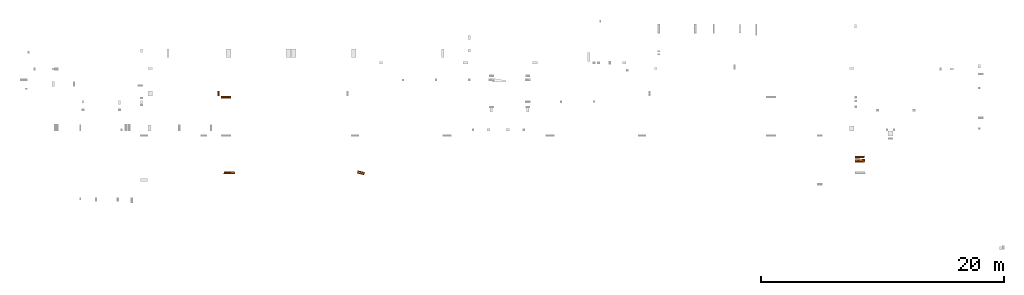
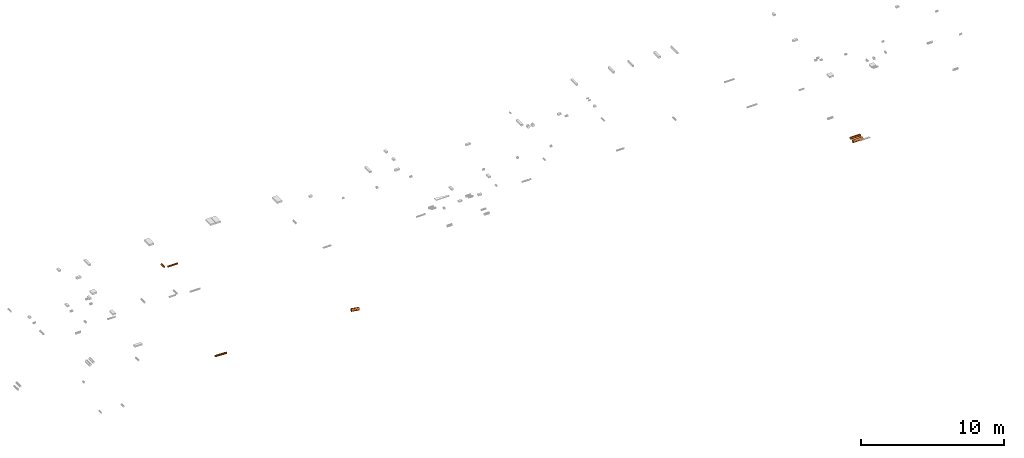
# One storey, part 7 of 7: 6 proxies.
"""IFC2X3 building model written with IfcOpenShell, lengths in centimetres."""

from ifc_helpers import new_model, entity, si_unit, converted_unit, derived_unit, direction, frame, origin, place, context, subcontext, project, spatial, faceted_brep, source, transform, mapped, type_object, type_shapes, element, save


model = new_model("IFC2X3")

# Units and contexts
model_context = context("Model", 3, precision=0.001, world=origin(), true_north=direction((6.12303176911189e-17, 1.0)))
body_context = subcontext(model_context, "Body", "Model", "MODEL_VIEW")
ifc_project = project(units=[si_unit("LENGTHUNIT", "METRE", prefix="CENTI"), si_unit("AREAUNIT", "SQUARE_METRE"), si_unit("VOLUMEUNIT", "CUBIC_METRE"), converted_unit("PLANEANGLEUNIT", "DEGREE", entity("IfcRatioMeasure", 0.0174532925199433), si_unit("PLANEANGLEUNIT", "RADIAN"), dimensions=[0, 0, 0, 0, 0, 0, 0]), si_unit("MASSUNIT", "GRAM", prefix="KILO"), derived_unit("MASSDENSITYUNIT", [(si_unit("MASSUNIT", "GRAM", prefix="KILO"), 1), (si_unit("LENGTHUNIT", "METRE"), -3)]), si_unit("TIMEUNIT", "SECOND"), si_unit("FREQUENCYUNIT", "HERTZ"), si_unit("THERMODYNAMICTEMPERATUREUNIT", "DEGREE_CELSIUS"), derived_unit("THERMALTRANSMITTANCEUNIT", [(si_unit("MASSUNIT", "GRAM", prefix="KILO"), 1), (si_unit("THERMODYNAMICTEMPERATUREUNIT", "KELVIN"), -1), (si_unit("TIMEUNIT", "SECOND"), -3)]), derived_unit("VOLUMETRICFLOWRATEUNIT", [(si_unit("LENGTHUNIT", "METRE"), 3), (si_unit("TIMEUNIT", "SECOND"), -1)]), si_unit("ELECTRICCURRENTUNIT", "AMPERE"), si_unit("ELECTRICVOLTAGEUNIT", "VOLT"), si_unit("POWERUNIT", "WATT"), si_unit("FORCEUNIT", "NEWTON"), si_unit("ILLUMINANCEUNIT", "LUX"), si_unit("LUMINOUSFLUXUNIT", "LUMEN"), si_unit("LUMINOUSINTENSITYUNIT", "CANDELA"), derived_unit("USERDEFINED", [(si_unit("MASSUNIT", "GRAM", prefix="KILO"), -1), (si_unit("LENGTHUNIT", "METRE"), -2), (si_unit("TIMEUNIT", "SECOND"), 3), (si_unit("LUMINOUSFLUXUNIT", "LUMEN"), 1)]), derived_unit("LINEARVELOCITYUNIT", [(si_unit("LENGTHUNIT", "METRE"), 1), (si_unit("TIMEUNIT", "SECOND"), -1)]), si_unit("PRESSUREUNIT", "PASCAL"), derived_unit("USERDEFINED", [(si_unit("LENGTHUNIT", "METRE"), -2), (si_unit("MASSUNIT", "GRAM", prefix="KILO"), 1), (si_unit("TIMEUNIT", "SECOND"), -2)])], contexts=[model_context])

# Site, building, storey
site_placement = place(None, origin())
site = spatial("IfcSite", under=ifc_project, at=site_placement, Name="Default", CompositionType="ELEMENT")
building_placement = place(site_placement, origin())
building = spatial("IfcBuilding", under=site, at=building_placement, Name="CAGE 03", CompositionType="ELEMENT")
storey_placement = place(building_placement, origin())
storey = spatial("IfcBuildingStorey", under=building, at=storey_placement, Name="RDC", CompositionType="ELEMENT", Elevation=-1.08286712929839e-13)

# Proxies
building_element_proxy_type_1 = type_object("IfcBuildingElementProxyType", Name="Standard", PredefinedType="NOTDEFINED")
shared_shape_1 = source(origin(), body_context, "Body", "Brep", [
    faceted_brep([(-8.66025445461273, -40.0000003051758, -5.00000003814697), (-9.6592587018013, -40.0000003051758, -2.58819049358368), (-9.6592587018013, 40.0000003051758, -2.58819049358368), (-8.66025445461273, 40.0000003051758, -5.00000003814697), (-7.07106775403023, -40.0000003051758, -7.07106775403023), (-7.07106775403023, 40.0000003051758, -7.07106775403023), (-2.58819049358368, -40.0000003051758, -9.6592587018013), (-5.00000003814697, -40.0000003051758, -8.66025445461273), (-5.00000003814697, 40.0000003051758, -8.66025445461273), (-2.58819049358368, 40.0000003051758, -9.6592587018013), (0.0, -40.0000003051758, -10.0000000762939), (0.0, 40.0000003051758, -10.0000000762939), (-10.0000000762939, -40.0000003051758, 0.0), (-10.0000000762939, 40.0000003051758, 0.0), (5.00000003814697, -40.0000003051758, -8.66025445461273), (2.58819049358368, -40.0000003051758, -9.6592587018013), (2.58819049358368, 40.0000003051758, -9.6592587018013), (5.00000003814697, 40.0000003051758, -8.66025445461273), (7.07106775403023, -40.0000003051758, -7.07106775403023), (7.07106775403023, 40.0000003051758, -7.07106775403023), (9.6592587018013, -40.0000003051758, -2.58819049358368), (8.66025445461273, -40.0000003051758, -5.00000003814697), (8.66025445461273, 40.0000003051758, -5.00000003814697), (9.6592587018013, 40.0000003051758, -2.58819049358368), (10.0000000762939, -40.0000003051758, 0.0), (10.0000000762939, 40.0000003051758, 0.0), (8.66025445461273, -40.0000003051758, 5.00000003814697), (9.6592587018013, -40.0000003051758, 2.58819049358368), (9.6592587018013, 40.0000003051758, 2.58819049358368), (8.66025445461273, 40.0000003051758, 5.00000003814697), (7.07106775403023, -40.0000003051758, 7.07106775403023), (7.07106775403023, 40.0000003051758, 7.07106775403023), (2.58819049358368, -40.0000003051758, 9.6592587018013), (5.00000003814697, -40.0000003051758, 8.66025445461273), (5.00000003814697, 40.0000003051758, 8.66025445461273), (2.58819049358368, 40.0000003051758, 9.6592587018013), (0.0, -40.0000003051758, 10.0000000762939), (0.0, 40.0000003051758, 10.0000000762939), (-5.00000003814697, -40.0000003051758, 8.66025445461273), (-2.58819049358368, -40.0000003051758, 9.6592587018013), (-2.58819049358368, 40.0000003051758, 9.6592587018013), (-5.00000003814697, 40.0000003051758, 8.66025445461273), (-7.07106775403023, -40.0000003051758, 7.07106775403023), (-7.07106775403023, 40.0000003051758, 7.07106775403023), (-9.6592587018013, -40.0000003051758, 2.58819049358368), (-8.66025445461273, -40.0000003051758, 5.00000003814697), (-8.66025445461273, 40.0000003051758, 5.00000003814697), (-9.6592587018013, 40.0000003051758, 2.58819049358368)], [[[0, 1, 2, 3]], [[4, 0, 3, 5]], [[6, 7, 8, 9]], [[7, 4, 5, 8]], [[10, 6, 9, 11]], [[1, 12, 13, 2]], [[14, 15, 16, 17]], [[18, 14, 17, 19]], [[20, 21, 22, 23]], [[21, 18, 19, 22]], [[24, 20, 23, 25]], [[11, 16, 15, 10]], [[26, 27, 28, 29]], [[30, 26, 29, 31]], [[32, 33, 34, 35]], [[33, 30, 31, 34]], [[36, 32, 35, 37]], [[28, 27, 24, 25]], [[38, 39, 40, 41]], [[42, 38, 41, 43]], [[44, 45, 46, 47]], [[45, 42, 43, 46]], [[12, 44, 47, 13]], [[37, 40, 39, 36]], [[24, 27, 26, 30, 33, 32, 36, 39, 38, 42, 45, 44, 12, 1, 0, 4, 7, 6, 10, 15, 14, 18, 21, 20]], [[25, 23, 22, 19, 17, 16, 11, 9, 8, 5, 3, 2, 13, 47, 46, 43, 41, 40, 37, 35, 34, 31, 29, 28]]]),
])
type_shapes(building_element_proxy_type_1, [shared_shape_1])
proxy_1_placement = place(storey_placement, frame((10054.3330746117, 4166.13160361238, -136.000852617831), z_axis=(0.0, 0.0, 1.0), x_axis=(0.0183302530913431, -0.999831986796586, 0.0)))
element("IfcBuildingElementProxy", 1, at=proxy_1_placement, inside=storey, type_object=building_element_proxy_type_1, Name="RESERVATION CIRC_MUR2:Standard", ObjectType="Standard", context=body_context, shape_type="MappedRepresentation", body=[
    mapped(shared_shape_1, transform((0.0, 0.0, 0.0), scale=1.0)),
])
building_element_proxy_type_2 = type_object("IfcBuildingElementProxyType", Name="Standard", PredefinedType="NOTDEFINED")
shared_shape_2 = source(origin(), body_context, "Body", "Brep", [
    faceted_brep([(8.83883457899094, -40.0000003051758, 8.83883457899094), (10.8253176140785, -40.0000003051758, 6.25000004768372), (10.8253176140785, 40.0000003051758, 6.25000004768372), (8.83883457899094, 40.0000003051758, 8.83883457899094), (3.2352381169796, -40.0000003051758, 12.0740731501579), (6.25000004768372, -40.0000003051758, 10.8253176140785), (6.25000004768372, 40.0000003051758, 10.8253176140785), (3.2352381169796, 40.0000003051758, 12.0740731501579), (0.0, -40.0000003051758, 12.5000000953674), (0.0, 40.0000003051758, 12.5000000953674), (12.5000000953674, 40.0000003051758, 0.0), (12.0740731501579, 40.0000003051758, 3.2352381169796), (12.0740731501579, -40.0000003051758, 3.2352381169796), (12.5000000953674, -40.0000003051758, 0.0), (-6.25000004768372, -40.0000003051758, 10.8253176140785), (-3.2352381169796, -40.0000003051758, 12.0740731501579), (-3.2352381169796, 40.0000003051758, 12.0740731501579), (-6.25000004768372, 40.0000003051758, 10.8253176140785), (-8.83883457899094, -40.0000003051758, 8.83883457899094), (-8.83883457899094, 40.0000003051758, 8.83883457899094), (-12.0740731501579, -40.0000003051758, 3.2352381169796), (-10.8253176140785, -40.0000003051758, 6.25000004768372), (-10.8253176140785, 40.0000003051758, 6.25000004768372), (-12.0740731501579, 40.0000003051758, 3.2352381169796), (-12.5000000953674, -40.0000003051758, 0.0), (-12.5000000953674, 40.0000003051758, 0.0), (-10.8253176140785, -40.0000003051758, -6.25000004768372), (-12.0740731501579, -40.0000003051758, -3.2352381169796), (-12.0740731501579, 40.0000003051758, -3.2352381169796), (-10.8253176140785, 40.0000003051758, -6.25000004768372), (-8.83883457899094, -40.0000003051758, -8.83883457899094), (-8.83883457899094, 40.0000003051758, -8.83883457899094), (-3.2352381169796, -40.0000003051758, -12.0740731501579), (-6.25000004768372, -40.0000003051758, -10.8253176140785), (-6.25000004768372, 40.0000003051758, -10.8253176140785), (-3.2352381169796, 40.0000003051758, -12.0740731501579), (0.0, -40.0000003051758, -12.5000000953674), (0.0, 40.0000003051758, -12.5000000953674), (6.25000004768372, -40.0000003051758, -10.8253176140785), (3.2352381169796, -40.0000003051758, -12.0740731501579), (3.2352381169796, 40.0000003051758, -12.0740731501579), (6.25000004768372, 40.0000003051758, -10.8253176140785), (8.83883457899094, -40.0000003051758, -8.83883457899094), (8.83883457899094, 40.0000003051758, -8.83883457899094), (12.0740731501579, -40.0000003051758, -3.2352381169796), (10.8253176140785, -40.0000003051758, -6.25000004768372), (10.8253176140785, 40.0000003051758, -6.25000004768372), (12.0740731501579, 40.0000003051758, -3.2352381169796)], [[[0, 1, 2, 3]], [[4, 5, 6, 7]], [[5, 0, 3, 6]], [[8, 4, 7, 9]], [[10, 11, 12, 13]], [[1, 12, 11, 2]], [[14, 15, 16, 17]], [[18, 14, 17, 19]], [[20, 21, 22, 23]], [[21, 18, 19, 22]], [[24, 20, 23, 25]], [[9, 16, 15, 8]], [[26, 27, 28, 29]], [[30, 26, 29, 31]], [[32, 33, 34, 35]], [[33, 30, 31, 34]], [[36, 32, 35, 37]], [[27, 24, 25, 28]], [[38, 39, 40, 41]], [[42, 38, 41, 43]], [[44, 45, 46, 47]], [[45, 42, 43, 46]], [[13, 44, 47, 10]], [[37, 40, 39, 36]], [[13, 12, 1, 0, 5, 4, 8, 15, 14, 18, 21, 20, 24, 27, 26, 30, 33, 32, 36, 39, 38, 42, 45, 44]], [[10, 47, 46, 43, 41, 40, 37, 35, 34, 31, 29, 28, 25, 23, 22, 19, 17, 16, 9, 7, 6, 3, 2, 11]]]),
])
type_shapes(building_element_proxy_type_2, [shared_shape_2])
proxy_2_placement = place(storey_placement, frame((10054.9106886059, 4135.12538574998, -143.356496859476), z_axis=(0.0, 0.0, 1.0), x_axis=(0.0183302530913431, -0.999831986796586, 0.0)))
element("IfcBuildingElementProxy", 2, at=proxy_2_placement, inside=storey, type_object=building_element_proxy_type_2, Name="RESERVATION CIRC_MUR2:Standard", ObjectType="Standard", context=body_context, shape_type="MappedRepresentation", body=[
    mapped(shared_shape_2, transform((0.0, 0.0, 0.0), scale=1.0)),
])
building_element_proxy_type_3 = type_object("IfcBuildingElementProxyType", Name="Standard", PredefinedType="NOTDEFINED")
shared_shape_3 = source(origin(), body_context, "Body", "Brep", [
    faceted_brep([(8.0, -45.0, 0.0), (7.72740661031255, -45.0, 2.07055236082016), (6.92820323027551, -45.0, 4.0), (5.65685424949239, -45.0, 5.65685424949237), (4.0, -45.0, 6.9282032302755), (2.07055236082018, -45.0, 7.72740661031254), (0.0, -45.0, 8.0), (-2.07055236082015, -45.0, 7.72740661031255), (-4.0, -45.0, 6.92820323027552), (-5.65685424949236, -45.0, 5.65685424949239), (-6.9282032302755, -45.0, 4.0), (-7.72740661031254, -45.0, 2.07055236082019), (-8.0, -45.0, 0.0), (-7.72740661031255, -45.0, -2.07055236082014), (-6.92820323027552, -45.0, -4.0), (-5.6568542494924, -45.0, -5.65685424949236), (-4.0, -45.0, -6.92820323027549), (-2.0705523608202, -45.0, -7.72740661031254), (0.0, -45.0, -8.0), (2.07055236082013, -45.0, -7.72740661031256), (4.0, -45.0, -6.92820323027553), (5.65685424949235, -45.0, -5.65685424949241), (6.92820323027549, -45.0, -4.0), (7.72740661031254, -45.0, -2.07055236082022), (-7.72740623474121, 45.0000003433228, -2.07055244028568), (-6.92820310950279, 45.0000003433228, -4.00000021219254), (-5.65685447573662, 45.0000003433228, -5.65685447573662), (-4.00000021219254, 45.0000003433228, -6.92820310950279), (-2.07055244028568, 45.0000003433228, -7.72740623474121), (0.0, 45.0000003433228, -8.00000042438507), (-8.00000042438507, 45.0000003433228, 0.0), (2.07055244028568, 45.0000003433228, -7.72740623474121), (4.00000021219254, 45.0000003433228, -6.92820310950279), (5.65685447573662, 45.0000003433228, -5.65685447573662), (6.92820310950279, 45.0000003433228, -4.00000021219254), (7.72740623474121, 45.0000003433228, -2.07055244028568), (8.00000042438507, 45.0000003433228, 0.0), (-7.72740661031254, 45.0, 2.07055236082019), (-6.9282032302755, 45.0, 4.0), (-5.65685424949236, 45.0, 5.65685424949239), (-4.0, 45.0, 6.92820323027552), (-2.07055236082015, 45.0, 7.72740661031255), (0.0, 45.0, 8.0), (2.07055236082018, 45.0, 7.72740661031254), (4.0, 45.0, 6.9282032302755), (5.65685424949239, 45.0, 5.65685424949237), (6.92820323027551, 45.0, 4.0), (7.72740661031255, 45.0, 2.07055236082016)], [[[0, 1, 2, 3, 4, 5, 6, 7, 8, 9, 10, 11, 12, 13, 14, 15, 16, 17, 18, 19, 20, 21, 22, 23]], [[14, 13, 24, 25]], [[15, 14, 25, 26]], [[17, 16, 27, 28]], [[16, 15, 26, 27]], [[18, 17, 28, 29]], [[13, 12, 30, 24]], [[20, 19, 31, 32]], [[21, 20, 32, 33]], [[23, 22, 34, 35]], [[22, 21, 33, 34]], [[0, 23, 35, 36]], [[29, 31, 19, 18]], [[36, 35, 34, 33, 32, 31, 29, 28, 27, 26, 25, 24, 30, 37, 38, 39, 40, 41, 42, 43, 44, 45, 46, 47]], [[2, 1, 47, 46]], [[3, 2, 46, 45]], [[5, 4, 44, 43]], [[4, 3, 45, 44]], [[6, 5, 43, 42]], [[47, 1, 0, 36]], [[8, 7, 41, 40]], [[9, 8, 40, 39]], [[11, 10, 38, 37]], [[10, 9, 39, 38]], [[12, 11, 37, 30]], [[42, 41, 7, 6]]]),
])
type_shapes(building_element_proxy_type_3, [shared_shape_3])
proxy_3_placement = place(storey_placement, frame((4867.96694572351, 4036.69898966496, -96.6679459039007), z_axis=(0.0, 0.0, 1.0), x_axis=(0.0427203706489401, 0.999087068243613, 0.0)))
element("IfcBuildingElementProxy", 3, at=proxy_3_placement, inside=storey, type_object=building_element_proxy_type_3, Name="RESERVATION CIRC_MUR2:Standard", ObjectType="Standard", context=body_context, shape_type="MappedRepresentation", body=[
    mapped(shared_shape_3, transform((0.0, 0.0, 0.0), scale=1.0)),
])
building_element_proxy_type_4 = type_object("IfcBuildingElementProxyType", Name="Standard", PredefinedType="NOTDEFINED")
shared_shape_4 = source(origin(), body_context, "Body", "Brep", [
    faceted_brep([(12.5, 30.0, 0.0), (12.0740728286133, 30.0, -3.23523806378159), (10.8253175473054, 30.0, -6.25000000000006), (8.8388347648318, 30.0, -8.83883476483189), (6.24999999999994, 30.0, -10.8253175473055), (3.23523806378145, 30.0, -12.0740728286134), (0.0, 30.0, -12.5), (-3.23523806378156, 30.0, -12.0740728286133), (-6.25000000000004, 30.0, -10.8253175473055), (-8.83883476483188, 30.0, -8.83883476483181), (-10.8253175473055, 30.0, -6.24999999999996), (-12.0740728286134, 30.0, -3.23523806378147), (-12.5, 30.0, 0.0), (-12.0740728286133, 30.0, 3.23523806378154), (-10.8253175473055, 30.0, 6.25000000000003), (-8.83883476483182, 30.0, 8.83883476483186), (-6.24999999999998, 30.0, 10.8253175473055), (-3.23523806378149, 30.0, 12.0740728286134), (0.0, 30.0, 12.5), (3.23523806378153, 30.0, 12.0740728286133), (6.25000000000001, 30.0, 10.8253175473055), (8.83883476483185, 30.0, 8.83883476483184), (10.8253175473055, 30.0, 6.24999999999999), (12.0740728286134, 30.0, 3.2352380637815), (12.5, -30.0, 0.0), (12.0740728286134, -30.0, 3.2352380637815), (10.8253175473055, -30.0, 6.24999999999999), (8.83883476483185, -30.0, 8.83883476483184), (6.25000000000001, -30.0, 10.8253175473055), (3.23523806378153, -30.0, 12.0740728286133), (0.0, -30.0, 12.5), (-3.23523806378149, -30.0, 12.0740728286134), (-6.24999999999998, -30.0, 10.8253175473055), (-8.83883476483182, -30.0, 8.83883476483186), (-10.8253175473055, -30.0, 6.25000000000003), (-12.0740728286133, -30.0, 3.23523806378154), (-12.5, -30.0, 0.0), (-12.0740728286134, -30.0, -3.23523806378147), (-10.8253175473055, -30.0, -6.24999999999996), (-8.83883476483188, -30.0, -8.83883476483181), (-6.25000000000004, -30.0, -10.8253175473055), (-3.23523806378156, -30.0, -12.0740728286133), (0.0, -30.0, -12.5), (3.23523806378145, -30.0, -12.0740728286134), (6.24999999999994, -30.0, -10.8253175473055), (8.8388347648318, -30.0, -8.83883476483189), (10.8253175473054, -30.0, -6.25000000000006), (12.0740728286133, -30.0, -3.23523806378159)], [[[0, 1, 2, 3, 4, 5, 6, 7, 8, 9, 10, 11, 12, 13, 14, 15, 16, 17, 18, 19, 20, 21, 22, 23]], [[24, 25, 26, 27, 28, 29, 30, 31, 32, 33, 34, 35, 36, 37, 38, 39, 40, 41, 42, 43, 44, 45, 46, 47]], [[27, 26, 22, 21]], [[29, 28, 20, 19]], [[28, 27, 21, 20]], [[30, 29, 19, 18]], [[0, 23, 25, 24]], [[26, 25, 23, 22]], [[32, 31, 17, 16]], [[33, 32, 16, 15]], [[35, 34, 14, 13]], [[34, 33, 15, 14]], [[36, 35, 13, 12]], [[18, 17, 31, 30]], [[38, 37, 11, 10]], [[39, 38, 10, 9]], [[41, 40, 8, 7]], [[40, 39, 9, 8]], [[42, 41, 7, 6]], [[37, 36, 12, 11]], [[44, 43, 5, 4]], [[45, 44, 4, 3]], [[47, 46, 2, 1]], [[46, 45, 3, 2]], [[24, 47, 1, 0]], [[6, 5, 43, 42]]]),
])
type_shapes(building_element_proxy_type_4, [shared_shape_4])
proxy_4_placement = place(storey_placement, frame((5949.64606166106, 4036.56750264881, -91.2676304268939), z_axis=(0.0, 0.0, 1.0), x_axis=(0.223509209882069, 0.974701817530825, 0.0)))
element("IfcBuildingElementProxy", 4, at=proxy_4_placement, inside=storey, type_object=building_element_proxy_type_4, Name="RESERVATION CIRC_MUR2:Standard", ObjectType="Standard", context=body_context, shape_type="MappedRepresentation", body=[
    mapped(shared_shape_4, transform((0.0, 0.0, 0.0), scale=1.0)),
])
building_element_proxy_type_5 = type_object("IfcBuildingElementProxyType", Name="Standard", PredefinedType="NOTDEFINED")
shared_shape_5 = source(origin(), body_context, "Body", "Brep", [
    faceted_brep([(-6.06217766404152, -20.0000001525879, -3.50000007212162), (-6.76148090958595, -20.0000001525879, -1.81173330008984), (-6.76148090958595, 20.0000001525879, -1.81173330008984), (-6.06217766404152, 20.0000001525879, -3.50000007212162), (-4.94974738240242, -20.0000001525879, -4.94974738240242), (-4.94974738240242, 20.0000001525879, -4.94974738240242), (-1.81173330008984, -20.0000001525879, -6.76148090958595), (-3.50000007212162, -20.0000001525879, -6.06217766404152), (-3.50000007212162, 20.0000001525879, -6.06217766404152), (-1.81173330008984, 20.0000001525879, -6.76148090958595), (0.0, -20.0000001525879, -7.00000014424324), (0.0, 20.0000001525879, -7.00000014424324), (-7.00000014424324, -20.0000001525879, 0.0), (-7.00000014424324, 20.0000001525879, 0.0), (3.50000007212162, -20.0000001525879, -6.06217766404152), (1.81173330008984, -20.0000001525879, -6.76148090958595), (1.81173330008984, 20.0000001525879, -6.76148090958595), (3.50000007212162, 20.0000001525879, -6.06217766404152), (4.94974738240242, -20.0000001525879, -4.94974738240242), (4.94974738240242, 20.0000001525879, -4.94974738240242), (6.76148090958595, -20.0000001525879, -1.81173330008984), (6.06217766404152, -20.0000001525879, -3.50000007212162), (6.06217766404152, 20.0000001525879, -3.50000007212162), (6.76148090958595, 20.0000001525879, -1.81173330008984), (7.00000014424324, -20.0000001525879, 0.0), (7.00000014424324, 20.0000001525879, 0.0), (-6.76148078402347, 20.0, 1.81173331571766), (-6.06217782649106, 20.0, 3.50000000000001), (-4.94974746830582, 20.0, 4.94974746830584), (-3.49999999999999, 20.0, 6.06217782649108), (-1.81173331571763, 20.0, 6.76148078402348), (0.0, 20.0, 7.0), (1.81173331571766, 20.0, 6.76148078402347), (3.50000000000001, 20.0, 6.06217782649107), (4.94974746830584, 20.0, 4.94974746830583), (6.06217782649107, 20.0, 3.5), (6.76148078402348, 20.0, 1.81173331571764), (6.76148078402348, -20.0, 1.81173331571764), (6.06217782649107, -20.0, 3.5), (4.94974746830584, -20.0, 4.94974746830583), (3.50000000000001, -20.0, 6.06217782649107), (1.81173331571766, -20.0, 6.76148078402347), (0.0, -20.0, 7.0), (-1.81173331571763, -20.0, 6.76148078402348), (-3.49999999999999, -20.0, 6.06217782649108), (-4.94974746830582, -20.0, 4.94974746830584), (-6.06217782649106, -20.0, 3.50000000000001), (-6.76148078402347, -20.0, 1.81173331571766)], [[[0, 1, 2, 3]], [[4, 0, 3, 5]], [[6, 7, 8, 9]], [[7, 4, 5, 8]], [[10, 6, 9, 11]], [[1, 12, 13, 2]], [[14, 15, 16, 17]], [[18, 14, 17, 19]], [[20, 21, 22, 23]], [[21, 18, 19, 22]], [[24, 20, 23, 25]], [[11, 16, 15, 10]], [[25, 23, 22, 19, 17, 16, 11, 9, 8, 5, 3, 2, 13, 26, 27, 28, 29, 30, 31, 32, 33, 34, 35, 36]], [[24, 37, 38, 39, 40, 41, 42, 43, 44, 45, 46, 47, 12, 1, 0, 4, 7, 6, 10, 15, 14, 18, 21, 20]], [[39, 38, 35, 34]], [[41, 40, 33, 32]], [[40, 39, 34, 33]], [[42, 41, 32, 31]], [[25, 36, 37, 24]], [[38, 37, 36, 35]], [[44, 43, 30, 29]], [[45, 44, 29, 28]], [[47, 46, 27, 26]], [[46, 45, 28, 27]], [[12, 47, 26, 13]], [[31, 30, 43, 42]]]),
])
type_shapes(building_element_proxy_type_5, [shared_shape_5])
proxy_5_placement = place(storey_placement, frame((4777.38693957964, 4688.4015244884, 297.409393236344), z_axis=(0.0, 0.0, 1.0), x_axis=(-1.0, 0.0, 0.0)))
element("IfcBuildingElementProxy", 5, at=proxy_5_placement, inside=storey, type_object=building_element_proxy_type_5, Name="RESERVATION CIRC_MUR2:Standard", ObjectType="Standard", context=body_context, shape_type="MappedRepresentation", body=[
    mapped(shared_shape_5, transform((0.0, 0.0, 0.0), scale=1.0)),
])
building_element_proxy_type_6 = type_object("IfcBuildingElementProxyType", Name="Standard", PredefinedType="NOTDEFINED")
shared_shape_6 = source(origin(), body_context, "Body", "Brep", [
    faceted_brep([(6.06217766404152, -40.0000003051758, 3.50000007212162), (6.76148090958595, -40.0000003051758, 1.81173330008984), (6.76148090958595, 40.0000003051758, 1.81173330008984), (6.06217766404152, 40.0000003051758, 3.50000007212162), (4.94974738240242, -40.0000003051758, 4.94974738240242), (4.94974738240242, 40.0000003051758, 4.94974738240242), (1.81173330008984, -40.0000003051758, 6.76148090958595), (3.50000007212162, -40.0000003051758, 6.06217766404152), (3.50000007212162, 40.0000003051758, 6.06217766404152), (1.81173330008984, 40.0000003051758, 6.76148090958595), (0.0, -40.0000003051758, 7.00000014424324), (0.0, 40.0000003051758, 7.00000014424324), (7.00000014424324, -40.0000003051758, 0.0), (7.00000014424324, 40.0000003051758, 0.0), (-3.50000007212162, -40.0000003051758, 6.06217766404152), (-1.81173330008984, -40.0000003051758, 6.76148090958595), (-1.81173330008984, 40.0000003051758, 6.76148090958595), (-3.50000007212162, 40.0000003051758, 6.06217766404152), (-4.94974738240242, -40.0000003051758, 4.94974738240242), (-4.94974738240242, 40.0000003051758, 4.94974738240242), (-6.76148090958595, -40.0000003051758, 1.81173330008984), (-6.06217766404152, -40.0000003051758, 3.50000007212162), (-6.06217766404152, 40.0000003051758, 3.50000007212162), (-6.76148090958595, 40.0000003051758, 1.81173330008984), (-7.00000014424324, -40.0000003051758, 0.0), (-7.00000014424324, 40.0000003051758, 0.0), (-6.06217766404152, -40.0000003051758, -3.50000007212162), (-6.76148090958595, -40.0000003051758, -1.81173330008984), (-6.76148090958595, 40.0000003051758, -1.81173330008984), (-6.06217766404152, 40.0000003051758, -3.50000007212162), (-4.94974738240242, -40.0000003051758, -4.94974738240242), (-4.94974738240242, 40.0000003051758, -4.94974738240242), (-1.81173330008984, -40.0000003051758, -6.76148090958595), (-3.50000007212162, -40.0000003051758, -6.06217766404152), (-3.50000007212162, 40.0000003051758, -6.06217766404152), (-1.81173330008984, 40.0000003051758, -6.76148090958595), (0.0, -40.0000003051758, -7.00000014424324), (0.0, 40.0000003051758, -7.00000014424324), (3.50000007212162, -40.0000003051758, -6.06217766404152), (1.81173330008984, -40.0000003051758, -6.76148090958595), (1.81173330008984, 40.0000003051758, -6.76148090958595), (3.50000007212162, 40.0000003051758, -6.06217766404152), (4.94974738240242, -40.0000003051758, -4.94974738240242), (4.94974738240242, 40.0000003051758, -4.94974738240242), (6.76148090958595, -40.0000003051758, -1.81173330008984), (6.06217766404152, -40.0000003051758, -3.50000007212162), (6.06217766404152, 40.0000003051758, -3.50000007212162), (6.76148090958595, 40.0000003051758, -1.81173330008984)], [[[0, 1, 2, 3]], [[4, 0, 3, 5]], [[6, 7, 8, 9]], [[7, 4, 5, 8]], [[10, 6, 9, 11]], [[2, 1, 12, 13]], [[14, 15, 16, 17]], [[18, 14, 17, 19]], [[20, 21, 22, 23]], [[21, 18, 19, 22]], [[24, 20, 23, 25]], [[11, 16, 15, 10]], [[26, 27, 28, 29]], [[30, 26, 29, 31]], [[32, 33, 34, 35]], [[33, 30, 31, 34]], [[36, 32, 35, 37]], [[27, 24, 25, 28]], [[38, 39, 40, 41]], [[42, 38, 41, 43]], [[44, 45, 46, 47]], [[45, 42, 43, 46]], [[12, 44, 47, 13]], [[37, 40, 39, 36]], [[13, 47, 46, 43, 41, 40, 37, 35, 34, 31, 29, 28, 25, 23, 22, 19, 17, 16, 11, 9, 8, 5, 3, 2]], [[12, 1, 0, 4, 7, 6, 10, 15, 14, 18, 21, 20, 24, 27, 26, 30, 33, 32, 36, 39, 38, 42, 45, 44]]]),
])
type_shapes(building_element_proxy_type_6, [shared_shape_6])
proxy_6_placement = place(storey_placement, frame((4838.4483128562, 4657.41551527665, 298.804202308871), z_axis=(0.0, 0.0, 1.0), x_axis=(-0.000673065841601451, -0.999999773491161, 0.0)))
element("IfcBuildingElementProxy", 6, at=proxy_6_placement, inside=storey, type_object=building_element_proxy_type_6, Name="RESERVATION CIRC_MUR2:Standard", ObjectType="Standard", context=body_context, shape_type="MappedRepresentation", body=[
    mapped(shared_shape_6, transform((0.0, 0.0, 0.0), scale=1.0)),
])

save(model, "model.ifc")
